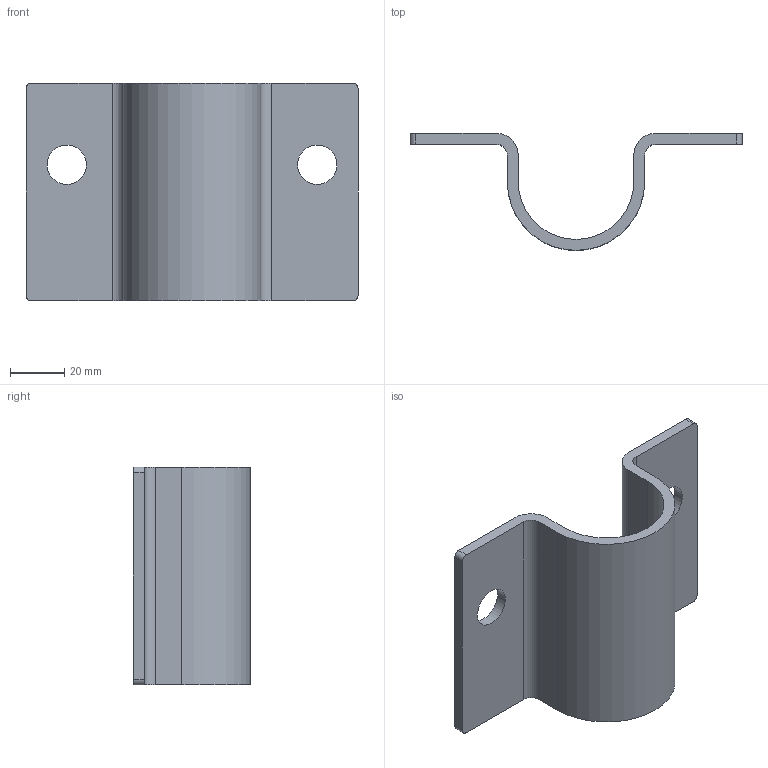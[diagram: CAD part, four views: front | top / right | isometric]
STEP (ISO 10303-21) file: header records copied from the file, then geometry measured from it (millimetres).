
FILE_DESCRIPTION((''),'2;1');
FILE_NAME('S:\Användarkataloger\AndreasA\Mina Inventor filer\Räcken\STEP\fäste_r.stp','2010-09-07T13:57:05',('AndreasA'),(''),'Autodesk Inventor 2011','Autodesk Inventor 2011','');
FILE_SCHEMA(('AUTOMOTIVE_DESIGN { 1 0 10303 214 1 1 1 1 }'));
Length unit declared in the file: millimetre
Products named in the file (1): fäste_r
Bounding box: 122 x 43 x 80 mm (x, y, z)
Volume: 54630.5 mm3; surface area: 29705.1 mm2
Topology: 1 solids, 1 shells, 24 faces, 68 edges, 46 vertices
Faces by surface type: cylinder 12, plane 12
Full cylindrical faces by diameter (mm): 14.5 x2
Entity records: 798 total; most frequent: DIRECTION 138, CARTESIAN_POINT 133, ORIENTED_EDGE 128, EDGE_CURVE 64, AXIS2_PLACEMENT_3D 49, VERTEX_POINT 44, VECTOR 40, LINE 40
